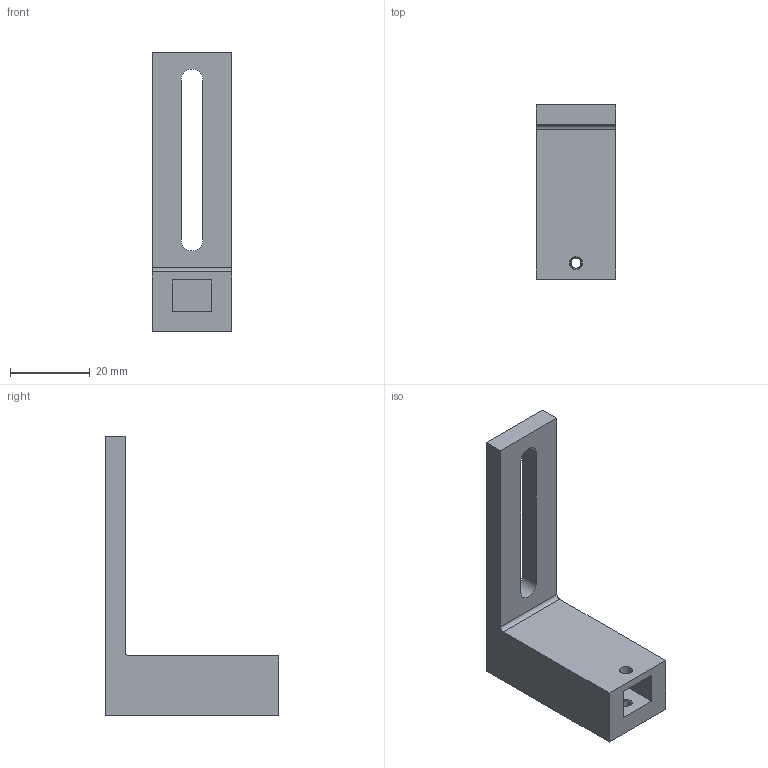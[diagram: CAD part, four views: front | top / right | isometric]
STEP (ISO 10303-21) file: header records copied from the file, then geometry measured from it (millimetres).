
FILE_DESCRIPTION(/* description */ (''),/* implementation_level */ '2;1');
FILE_NAME(/* name */ '砂轮阴极直角架.stp',/* time_stamp */ '2026-09-19T17:31:00+08:00',/* author */ (''),/* organization */ (''),/* preprocessor_version */ 'ST-DEVELOPER v20',/* originating_system */ 'SIEMENS PLM Software NX2312.1700',/* authorisation */ '');
FILE_SCHEMA (('AUTOMOTIVE_DESIGN { 1 0 10303 214 3 1 1 1 }'));
Length unit declared in the file: millimetre
Products named in the file (1): 阴极直角架
Bounding box: 20 x 43.5 x 70 mm (x, y, z)
Volume: 16494.3 mm3; surface area: 6777.1 mm2
Topology: 1 solids, 1 shells, 22 faces, 56 edges, 37 vertices
Faces by surface type: plane 15, cylinder 5, cone 2
Full cylindrical faces by diameter (mm): 2.5 x1, 3.2 x1
Entity records: 671 total; most frequent: CARTESIAN_POINT 110, DIRECTION 109, ORIENTED_EDGE 102, EDGE_CURVE 51, LINE 39, VECTOR 39, VERTEX_POINT 36, AXIS2_PLACEMENT_3D 35
